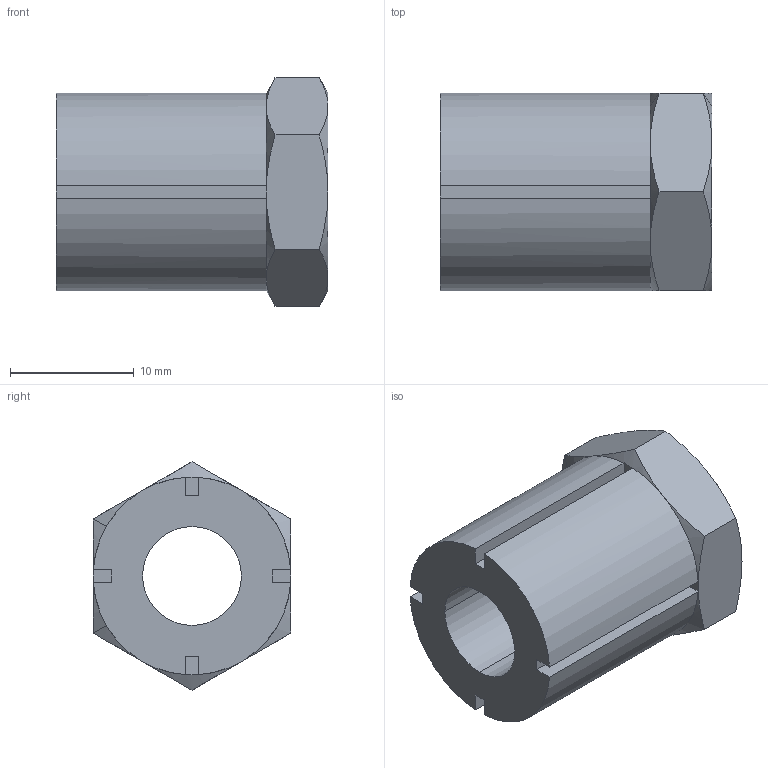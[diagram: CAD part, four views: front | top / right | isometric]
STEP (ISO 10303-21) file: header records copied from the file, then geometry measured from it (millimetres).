
FILE_DESCRIPTION((''),'2;1');
FILE_NAME('C:\WIXROYD\Positioning\3840\3840W008.stp','2003-01-09T15:38:40',('Administrator'),(''),'Autodesk Inventor (tm) 5.0','Autodesk Inventor (tm) 5.0','');
FILE_SCHEMA(('CONFIG_CONTROL_DESIGN'));
Length unit declared in the file: millimetre
Products named in the file (1): 3840W008
Bounding box: 22 x 16 x 18.48 mm (x, y, z)
Volume: 3310.2 mm3; surface area: 2208.5 mm2
Topology: 1 solids, 1 shells, 48 faces, 114 edges, 68 vertices
Faces by surface type: plane 24, cone 16, cylinder 8
Entity records: 1437 total; most frequent: CARTESIAN_POINT 279, ORIENTED_EDGE 228, DIRECTION 224, EDGE_CURVE 114, AXIS2_PLACEMENT_3D 85, VERTEX_POINT 68, VECTOR 54, LINE 54
